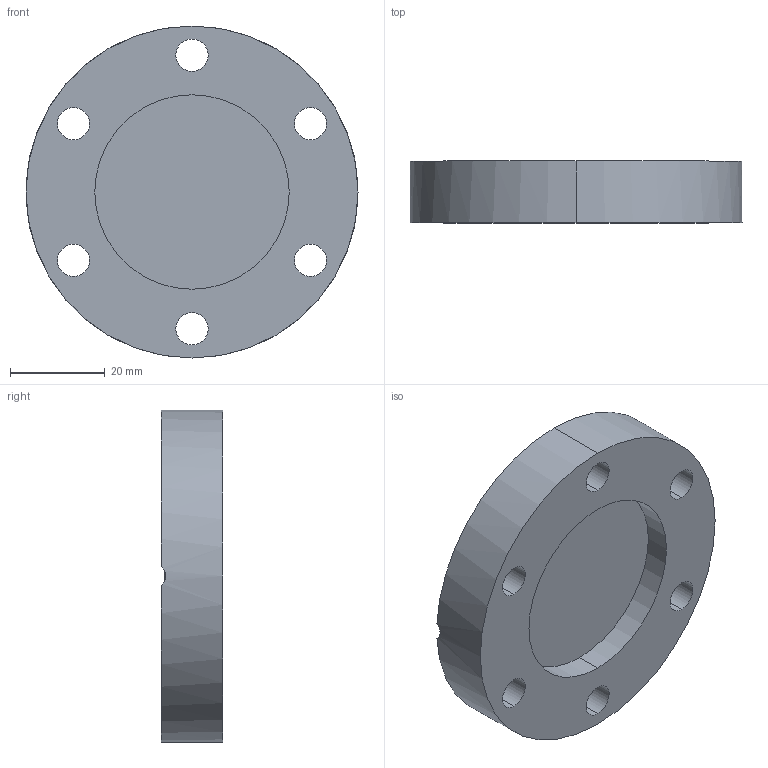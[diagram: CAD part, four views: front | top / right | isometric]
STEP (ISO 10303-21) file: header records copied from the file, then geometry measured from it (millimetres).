
FILE_DESCRIPTION (( 'STEP AP214' ), '1' );
FILE_NAME ('W6BCFD40.STEP', '2021-02-23T13:03:15', ( '' ), ( '' ), 'SwSTEP 2.0', 'SolidWorks 2020', '' );
FILE_SCHEMA (( 'AUTOMOTIVE_DESIGN' ));
Length unit declared in the file: millimetre
Products named in the file (1): W6BCFD40
Bounding box: 70 x 13 x 70 mm (x, y, z)
Volume: 37762.8 mm3; surface area: 15593.2 mm2
Topology: 2 solids, 2 shells, 44 faces, 104 edges, 66 vertices
Faces by surface type: cylinder 26, plane 8, cone 6, torus 4
Entity records: 1425 total; most frequent: CARTESIAN_POINT 283, DIRECTION 256, ORIENTED_EDGE 208, AXIS2_PLACEMENT_3D 111, EDGE_CURVE 104, VERTEX_POINT 66, CIRCLE 66, EDGE_LOOP 60
